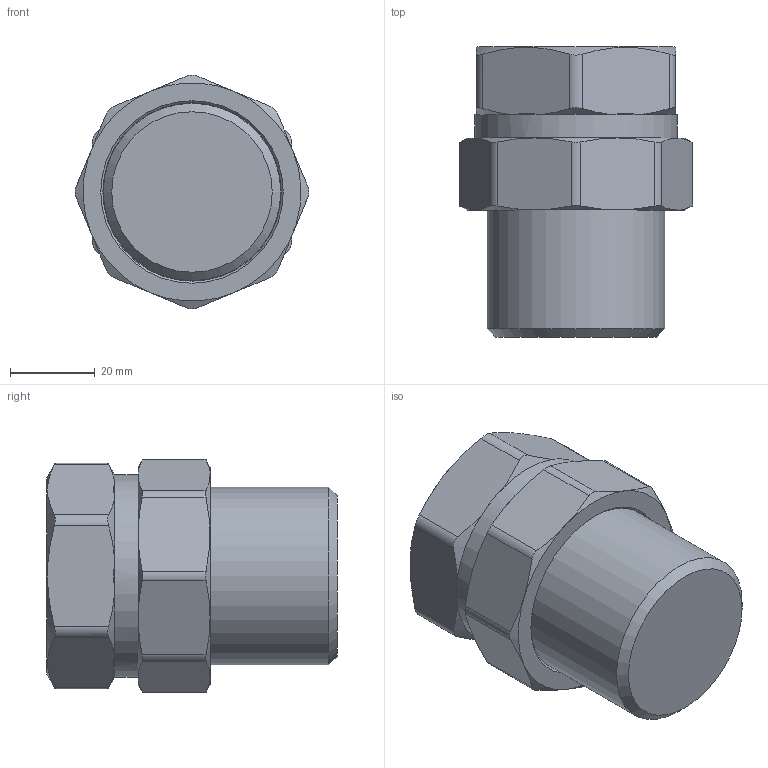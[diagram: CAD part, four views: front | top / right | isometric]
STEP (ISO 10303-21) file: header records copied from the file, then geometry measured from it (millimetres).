
FILE_DESCRIPTION(('STEP AP203'), '1');
FILE_NAME('覆.302612.004.000 捘 - VTr.341.N.0007', '2024-07-18T13:42:37', ('Boss'), (''), 'C3D Converter', 'C3D Toolkit', '');
FILE_SCHEMA(('CONFIG_CONTROL_DESIGN'));
Length unit declared in the file: millimetre
Products named in the file (1): ВР.302612.004.000 СБ
Bounding box: 55.25 x 68.55 x 55.25 mm (x, y, z)
Volume: 118620.4 mm3; surface area: 15411.8 mm2
Topology: 1 solids, 1 shells, 66 faces, 167 edges, 106 vertices
Faces by surface type: cone 30, plane 19, cylinder 17
Full cylindrical faces by diameter (mm): 41.91 x1, 42.1 x1, 47.803 x1
Entity records: 4261 total; most frequent: CARTESIAN_POINT 2837, ORIENTED_EDGE 314, DIRECTION 241, EDGE_CURVE 157, VERTEX_POINT 105, AXIS2_PLACEMENT_3D 100, B_SPLINE_CURVE_WITH_KNOTS 81, EDGE_LOOP 73
